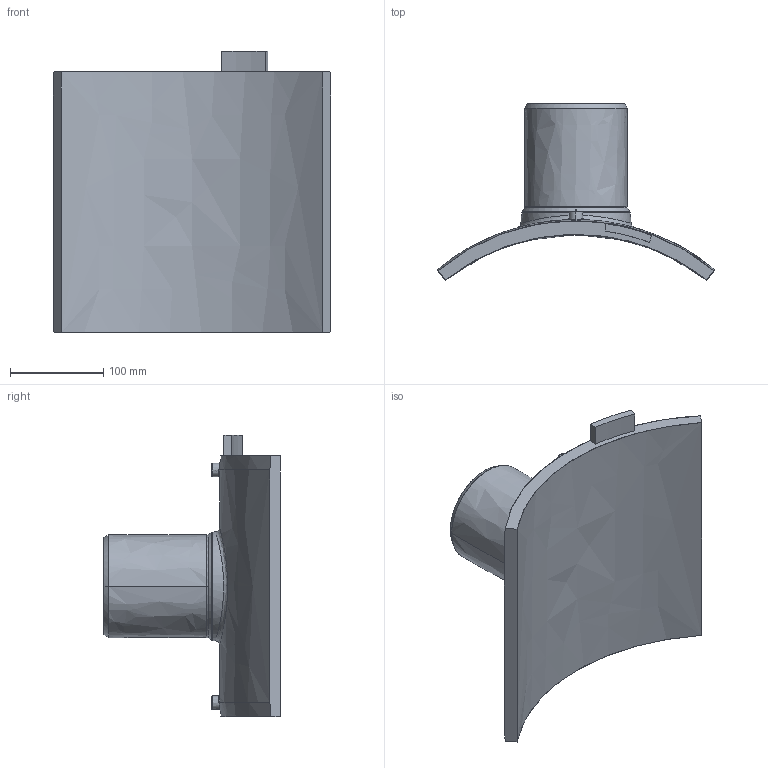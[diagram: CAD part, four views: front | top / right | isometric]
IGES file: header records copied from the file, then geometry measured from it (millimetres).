
Start section:  PTC IGES file: sa-uni_d450_110_01.igs
Global section: file name: sa-uni_d450_110_01.igs; native system: Pro/ENGINEER by Parametric Technology Corporation; preprocessor: 2011490; author: MikulicP; organization: Unknown; date: 20170206.140146; units: millimetre
Bounding box: 297 x 188.71 x 301 mm (x, y, z)
Surface area: 280173.7 mm2 (no closed solid volume)
Topology: 0 solids, 0 shells, 200 faces, 984 edges, 984 vertices
Faces by surface type: bspline 200
